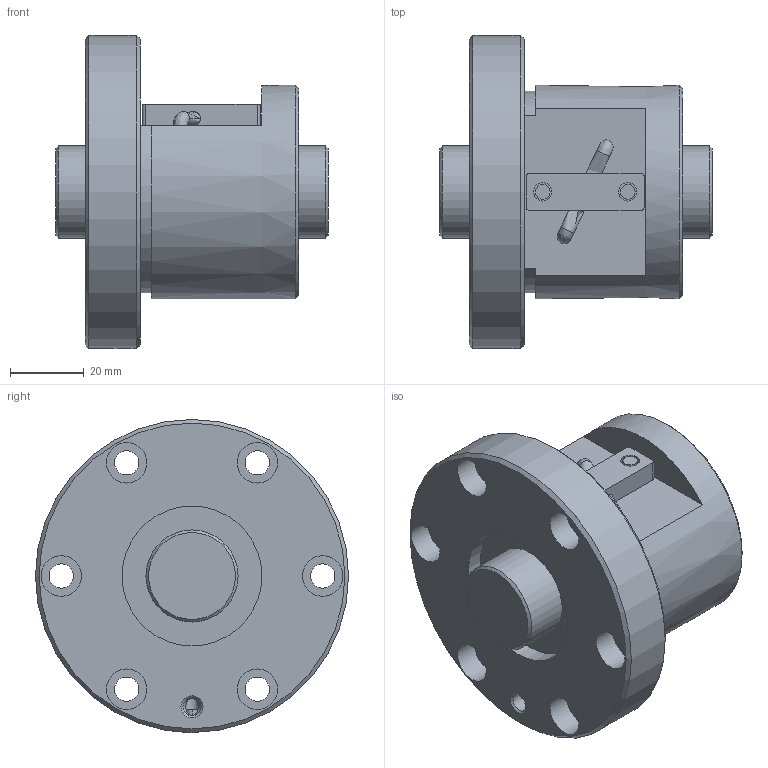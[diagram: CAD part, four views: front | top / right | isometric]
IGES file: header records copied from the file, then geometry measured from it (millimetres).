
Start section: Data from Parasolid IGES Translator 26.0.171, Copyright(c) 2006 Siemens PLM Software. All Rights Reserved.
Global section: file name: BNF2508V-2.5RRG1+74LC0_000_rev.igs; native system: By Siemens PLM Incorporated; preprocessor: XPlus GENERIC/IGES 26.0.171; author: Noname; organization: Noname; date: 20240806.072927; units: millimetre
Bounding box: 74 x 85 x 85 mm (x, y, z)
Surface area: 37495.3 mm2 (no closed solid volume)
Topology: 0 solids, 0 shells, 71 faces, 310 edges, 274 vertices
Faces by surface type: revolution 44, extrusion 27
